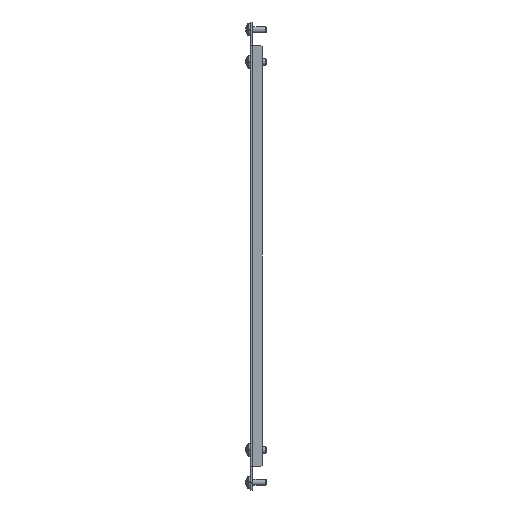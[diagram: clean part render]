
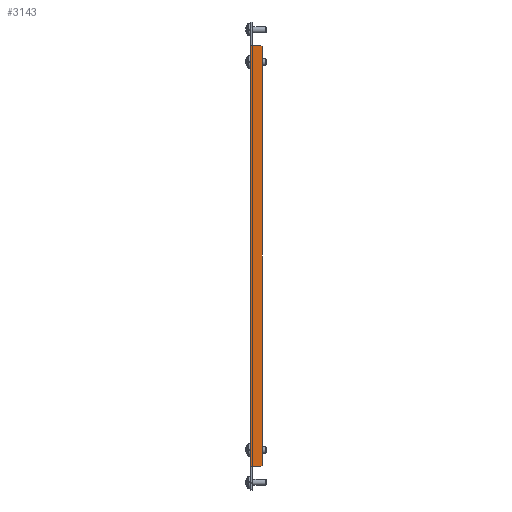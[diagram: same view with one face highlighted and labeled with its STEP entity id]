
A CAD part, left-side view. The second image highlights one B-rep face of the part: STEP entity #3143.
In plain terms, the highlighted planar face has unit normal (-1, 0, 0) as drawn and (1, 0, 0) by its records, which use the part's own axes.
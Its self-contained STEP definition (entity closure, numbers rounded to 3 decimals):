
#5 = VERTEX_POINT ( 'NONE', #2109 ) ;
#56 = VERTEX_POINT ( 'NONE', #1670 ) ;
#412 = EDGE_CURVE ( 'NONE', #589, #2318, #2791, .T. ) ;
#436 = VERTEX_POINT ( 'NONE', #1276 ) ;
#478 = EDGE_CURVE ( 'NONE', #1268, #56, #3025, .T. ) ;
#496 = DIRECTION ( 'NONE',  ( 0., 0.707, 0.707 ) ) ;
#501 = ORIENTED_EDGE ( 'NONE', *, *, #2851, .F. ) ;
#530 = ORIENTED_EDGE ( 'NONE', *, *, #867, .T. ) ;
#538 = ORIENTED_EDGE ( 'NONE', *, *, #1553, .T. ) ;
#562 = VECTOR ( 'NONE', #496, 1000. ) ;
#569 = DIRECTION ( 'NONE',  ( 0., 0., 1. ) ) ;
#589 = VERTEX_POINT ( 'NONE', #1083 ) ;
#604 = DIRECTION ( 'NONE',  ( 0., 0., 1. ) ) ;
#645 = DIRECTION ( 'NONE',  ( 0., 0., 1. ) ) ;
#698 = LINE ( 'NONE', #1459, #1517 ) ;
#759 = DIRECTION ( 'NONE',  ( 0., 1., 0. ) ) ;
#763 = CARTESIAN_POINT ( 'NONE',  ( 634., 0., 0. ) ) ;
#810 = LINE ( 'NONE', #3118, #2064 ) ;
#867 = EDGE_CURVE ( 'NONE', #1073, #589, #3268, .T. ) ;
#976 = VECTOR ( 'NONE', #1844, 1000. ) ;
#1003 = PLANE ( 'NONE',  #1476 ) ;
#1032 = EDGE_CURVE ( 'NONE', #56, #436, #1883, .T. ) ;
#1053 = CARTESIAN_POINT ( 'NONE',  ( 634., 163., -8. ) ) ;
#1055 = EDGE_CURVE ( 'NONE', #1112, #1073, #810, .T. ) ;
#1073 = VERTEX_POINT ( 'NONE', #2335 ) ;
#1083 = CARTESIAN_POINT ( 'NONE',  ( 634., 162., -9. ) ) ;
#1086 = VECTOR ( 'NONE', #604, 1000. ) ;
#1112 = VERTEX_POINT ( 'NONE', #2087 ) ;
#1268 = VERTEX_POINT ( 'NONE', #1944 ) ;
#1276 = CARTESIAN_POINT ( 'NONE',  ( 634., -163., 0. ) ) ;
#1304 = CARTESIAN_POINT ( 'NONE',  ( 634., 163., -8. ) ) ;
#1308 = CARTESIAN_POINT ( 'NONE',  ( 634., -163., 0. ) ) ;
#1332 = DIRECTION ( 'NONE',  ( 0., 0.707, -0.707 ) ) ;
#1368 = EDGE_LOOP ( 'NONE', ( #530, #1540, #538, #2749, #2379, #501, #2630, #2131 ) ) ;
#1459 = CARTESIAN_POINT ( 'NONE',  ( 634., 163., 0. ) ) ;
#1476 = AXIS2_PLACEMENT_3D ( 'NONE', #763, #3042, #3271 ) ;
#1517 = VECTOR ( 'NONE', #645, 1000. ) ;
#1540 = ORIENTED_EDGE ( 'NONE', *, *, #412, .T. ) ;
#1553 = EDGE_CURVE ( 'NONE', #2318, #1268, #698, .T. ) ;
#1562 = LINE ( 'NONE', #1308, #976 ) ;
#1612 = CARTESIAN_POINT ( 'NONE',  ( 634., -163., 0. ) ) ;
#1670 = CARTESIAN_POINT ( 'NONE',  ( 634., 163., 0. ) ) ;
#1676 = VECTOR ( 'NONE', #759, 1000. ) ;
#1844 = DIRECTION ( 'NONE',  ( 0., 0., -1. ) ) ;
#1857 = EDGE_CURVE ( 'NONE', #5, #1112, #1562, .T. ) ;
#1883 = LINE ( 'NONE', #2629, #2423 ) ;
#1944 = CARTESIAN_POINT ( 'NONE',  ( 634., 163., -2.1 ) ) ;
#2064 = VECTOR ( 'NONE', #1332, 1000. ) ;
#2087 = CARTESIAN_POINT ( 'NONE',  ( 634., -163., -8. ) ) ;
#2109 = CARTESIAN_POINT ( 'NONE',  ( 634., -163., -2.1 ) ) ;
#2112 = VECTOR ( 'NONE', #569, 1000. ) ;
#2131 = ORIENTED_EDGE ( 'NONE', *, *, #1055, .T. ) ;
#2158 = LINE ( 'NONE', #1612, #1086 ) ;
#2318 = VERTEX_POINT ( 'NONE', #1304 ) ;
#2335 = CARTESIAN_POINT ( 'NONE',  ( 634., -162., -9. ) ) ;
#2379 = ORIENTED_EDGE ( 'NONE', *, *, #1032, .T. ) ;
#2423 = VECTOR ( 'NONE', #2869, 1000. ) ;
#2520 = CARTESIAN_POINT ( 'NONE',  ( 634., 0., -9. ) ) ;
#2522 = FACE_OUTER_BOUND ( 'NONE', #1368, .T. ) ;
#2629 = CARTESIAN_POINT ( 'NONE',  ( 634., 0., 0. ) ) ;
#2630 = ORIENTED_EDGE ( 'NONE', *, *, #1857, .T. ) ;
#2749 = ORIENTED_EDGE ( 'NONE', *, *, #478, .T. ) ;
#2791 = LINE ( 'NONE', #1053, #562 ) ;
#2851 = EDGE_CURVE ( 'NONE', #5, #436, #2158, .T. ) ;
#2869 = DIRECTION ( 'NONE',  ( 0., -1., 0. ) ) ;
#3025 = LINE ( 'NONE', #3124, #2112 ) ;
#3042 = DIRECTION ( 'NONE',  ( -1., 0., 0. ) ) ;
#3118 = CARTESIAN_POINT ( 'NONE',  ( 634., -162., -9. ) ) ;
#3124 = CARTESIAN_POINT ( 'NONE',  ( 634., 163., -2.1 ) ) ;
#3143 = ADVANCED_FACE ( 'NONE', ( #2522 ), #1003, .F. ) ;
#3268 = LINE ( 'NONE', #2520, #1676 ) ;
#3271 = DIRECTION ( 'NONE',  ( 0., 0., 1. ) ) ;
